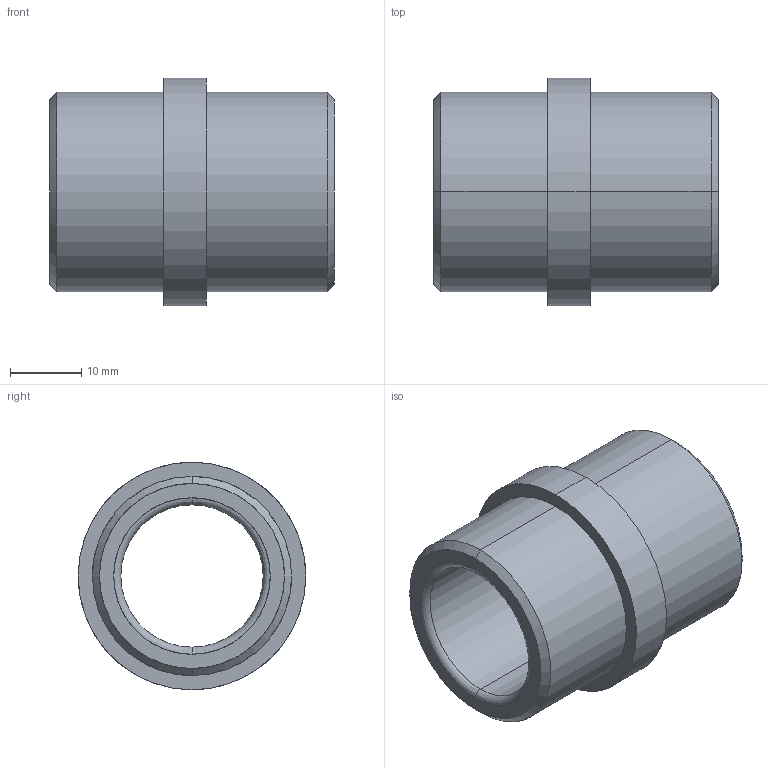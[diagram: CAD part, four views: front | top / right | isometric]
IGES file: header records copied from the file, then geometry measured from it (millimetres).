
Start section: START RECORD GO HERE.
Global section: file name: 355-20X40.igs; native system: DASSAULT SYSTEMES CATIA V5 R20 - www.3ds.com; preprocessor: CATIA Version 5 Release 20 ; author: Utente; organization: NB04-ASUS; date: 20210421.105546; units: millimetre
Bounding box: 40 x 32 x 32 mm (x, y, z)
Surface area: 6928.7 mm2 (no closed solid volume)
Topology: 0 solids, 0 shells, 20 faces, 128 edges, 128 vertices
Faces by surface type: revolution 16, plane 4
